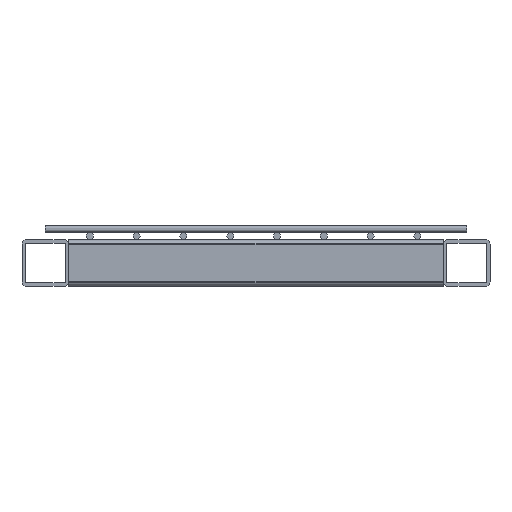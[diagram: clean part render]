
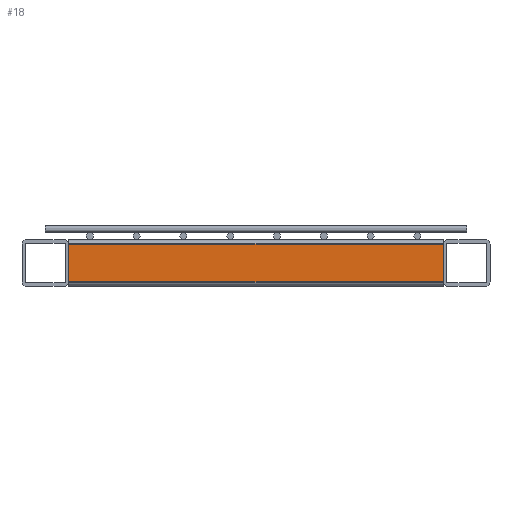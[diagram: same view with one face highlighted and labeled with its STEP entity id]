
A CAD part, front view. The second image highlights one B-rep face of the part: STEP entity #18.
In plain terms, the highlighted planar face has unit normal (0, -1, 0).
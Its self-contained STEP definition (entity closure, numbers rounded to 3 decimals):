
#18 = ADVANCED_FACE ( 'NONE', ( #5060 ), #5407, .F. ) ;
#378 = CARTESIAN_POINT ( 'NONE',  ( 100., -844., 8. ) ) ;
#489 = VERTEX_POINT ( 'NONE', #4254 ) ;
#760 = EDGE_CURVE ( 'NONE', #5547, #489, #4189, .T. ) ;
#1271 = DIRECTION ( 'NONE',  ( 0., 0., -1. ) ) ;
#1282 = EDGE_CURVE ( 'NONE', #5588, #5547, #4634, .T. ) ;
#1736 = ORIENTED_EDGE ( 'NONE', *, *, #1282, .F. ) ;
#1806 = CARTESIAN_POINT ( 'NONE',  ( -80., -844., -8. ) ) ;
#2308 = DIRECTION ( 'NONE',  ( 0., 0., 1. ) ) ;
#2376 = CARTESIAN_POINT ( 'NONE',  ( -80., -844., -8. ) ) ;
#2393 = DIRECTION ( 'NONE',  ( 0., 1., 0. ) ) ;
#2535 = LINE ( 'NONE', #2981, #5439 ) ;
#2834 = CARTESIAN_POINT ( 'NONE',  ( 100., -844., -8. ) ) ;
#2981 = CARTESIAN_POINT ( 'NONE',  ( 80., -844., -8. ) ) ;
#3607 = ORIENTED_EDGE ( 'NONE', *, *, #5216, .T. ) ;
#3762 = CARTESIAN_POINT ( 'NONE',  ( 100., -844., -8. ) ) ;
#3863 = EDGE_LOOP ( 'NONE', ( #4611, #1736, #4366, #3607 ) ) ;
#3916 = CARTESIAN_POINT ( 'NONE',  ( 80., -844., -8. ) ) ;
#4160 = DIRECTION ( 'NONE',  ( 0., 0., 1. ) ) ;
#4189 = LINE ( 'NONE', #2376, #5019 ) ;
#4216 = EDGE_CURVE ( 'NONE', #5204, #5588, #2535, .T. ) ;
#4248 = DIRECTION ( 'NONE',  ( -1., 0., 0. ) ) ;
#4254 = CARTESIAN_POINT ( 'NONE',  ( -80., -844., 8. ) ) ;
#4279 = VECTOR ( 'NONE', #4248, 1000. ) ;
#4342 = LINE ( 'NONE', #378, #5638 ) ;
#4366 = ORIENTED_EDGE ( 'NONE', *, *, #4216, .F. ) ;
#4611 = ORIENTED_EDGE ( 'NONE', *, *, #760, .F. ) ;
#4634 = LINE ( 'NONE', #3762, #4279 ) ;
#4781 = AXIS2_PLACEMENT_3D ( 'NONE', #2834, #2393, #2308 ) ;
#4814 = DIRECTION ( 'NONE',  ( -1., 0., 0. ) ) ;
#5019 = VECTOR ( 'NONE', #4160, 1000. ) ;
#5060 = FACE_OUTER_BOUND ( 'NONE', #3863, .T. ) ;
#5204 = VERTEX_POINT ( 'NONE', #5621 ) ;
#5216 = EDGE_CURVE ( 'NONE', #5204, #489, #4342, .T. ) ;
#5407 = PLANE ( 'NONE',  #4781 ) ;
#5439 = VECTOR ( 'NONE', #1271, 1000. ) ;
#5547 = VERTEX_POINT ( 'NONE', #1806 ) ;
#5588 = VERTEX_POINT ( 'NONE', #3916 ) ;
#5621 = CARTESIAN_POINT ( 'NONE',  ( 80., -844., 8. ) ) ;
#5638 = VECTOR ( 'NONE', #4814, 1000. ) ;
